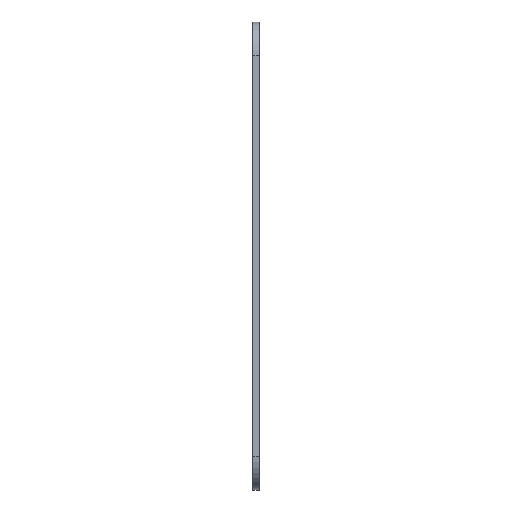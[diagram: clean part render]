
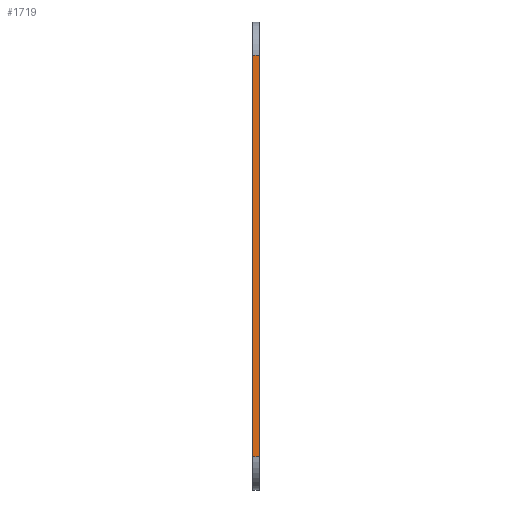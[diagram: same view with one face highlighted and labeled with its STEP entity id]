
A CAD part, left-side view. The second image highlights one B-rep face of the part: STEP entity #1719.
In plain terms, the highlighted planar face has unit normal (-1, 0, 0).
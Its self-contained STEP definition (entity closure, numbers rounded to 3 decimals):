
#44 = PLANE('',#45);
#45 = AXIS2_PLACEMENT_3D('',#46,#47,#48);
#46 = CARTESIAN_POINT('',(-30.,-1.2,50.));
#47 = DIRECTION('',(-0.,-1.,-0.));
#48 = DIRECTION('',(0.,0.,-1.));
#72 = CYLINDRICAL_SURFACE('',#73,6.);
#73 = AXIS2_PLACEMENT_3D('',#74,#75,#76);
#74 = CARTESIAN_POINT('',(-64.,-1.2,14.));
#75 = DIRECTION('',(-0.,1.,-0.));
#76 = DIRECTION('',(0.,0.,-1.));
#100 = PLANE('',#101);
#101 = AXIS2_PLACEMENT_3D('',#102,#103,#104);
#102 = CARTESIAN_POINT('',(-30.,0.,50.));
#103 = DIRECTION('',(-0.,-1.,-0.));
#104 = DIRECTION('',(0.,0.,-1.));
#252 = VERTEX_POINT('',#253);
#253 = CARTESIAN_POINT('',(-70.,-1.2,86.));
#268 = CYLINDRICAL_SURFACE('',#269,6.);
#269 = AXIS2_PLACEMENT_3D('',#270,#271,#272);
#270 = CARTESIAN_POINT('',(-64.,-1.2,86.));
#271 = DIRECTION('',(-0.,1.,-0.));
#272 = DIRECTION('',(0.,0.,1.));
#280 = EDGE_CURVE('',#252,#281,#283,.T.);
#281 = VERTEX_POINT('',#282);
#282 = CARTESIAN_POINT('',(-70.,-1.2,14.));
#283 = SURFACE_CURVE('',#284,(#288,#295),.PCURVE_S1.);
#284 = LINE('',#285,#286);
#285 = CARTESIAN_POINT('',(-70.,-1.2,92.));
#286 = VECTOR('',#287,1.);
#287 = DIRECTION('',(0.,0.,-1.));
#288 = PCURVE('',#44,#289);
#289 = DEFINITIONAL_REPRESENTATION('',(#290),#294);
#290 = LINE('',#291,#292);
#291 = CARTESIAN_POINT('',(-42.,-40.));
#292 = VECTOR('',#293,1.);
#293 = DIRECTION('',(1.,0.));
#294 = ( GEOMETRIC_REPRESENTATION_CONTEXT(2) 
PARAMETRIC_REPRESENTATION_CONTEXT() REPRESENTATION_CONTEXT('2D SPACE',''
  ) );
#295 = PCURVE('',#296,#301);
#296 = PLANE('',#297);
#297 = AXIS2_PLACEMENT_3D('',#298,#299,#300);
#298 = CARTESIAN_POINT('',(-70.,-1.2,92.));
#299 = DIRECTION('',(-1.,-0.,-0.));
#300 = DIRECTION('',(0.,0.,-1.));
#301 = DEFINITIONAL_REPRESENTATION('',(#302),#306);
#302 = LINE('',#303,#304);
#303 = CARTESIAN_POINT('',(0.,0.));
#304 = VECTOR('',#305,1.);
#305 = DIRECTION('',(1.,0.));
#306 = ( GEOMETRIC_REPRESENTATION_CONTEXT(2) 
PARAMETRIC_REPRESENTATION_CONTEXT() REPRESENTATION_CONTEXT('2D SPACE',''
  ) );
#971 = EDGE_CURVE('',#281,#972,#974,.T.);
#972 = VERTEX_POINT('',#973);
#973 = CARTESIAN_POINT('',(-70.,0.,14.));
#974 = SURFACE_CURVE('',#975,(#979,#986),.PCURVE_S1.);
#975 = LINE('',#976,#977);
#976 = CARTESIAN_POINT('',(-70.,-1.2,14.));
#977 = VECTOR('',#978,1.);
#978 = DIRECTION('',(-0.,1.,-0.));
#979 = PCURVE('',#72,#980);
#980 = DEFINITIONAL_REPRESENTATION('',(#981),#985);
#981 = LINE('',#982,#983);
#982 = CARTESIAN_POINT('',(1.571,0.));
#983 = VECTOR('',#984,1.);
#984 = DIRECTION('',(0.,1.));
#985 = ( GEOMETRIC_REPRESENTATION_CONTEXT(2) 
PARAMETRIC_REPRESENTATION_CONTEXT() REPRESENTATION_CONTEXT('2D SPACE',''
  ) );
#986 = PCURVE('',#296,#987);
#987 = DEFINITIONAL_REPRESENTATION('',(#988),#992);
#988 = LINE('',#989,#990);
#989 = CARTESIAN_POINT('',(78.,0.));
#990 = VECTOR('',#991,1.);
#991 = DIRECTION('',(0.,-1.));
#992 = ( GEOMETRIC_REPRESENTATION_CONTEXT(2) 
PARAMETRIC_REPRESENTATION_CONTEXT() REPRESENTATION_CONTEXT('2D SPACE',''
  ) );
#1147 = VERTEX_POINT('',#1148);
#1148 = CARTESIAN_POINT('',(-70.,0.,86.));
#1170 = EDGE_CURVE('',#1147,#972,#1171,.T.);
#1171 = SURFACE_CURVE('',#1172,(#1176,#1183),.PCURVE_S1.);
#1172 = LINE('',#1173,#1174);
#1173 = CARTESIAN_POINT('',(-70.,0.,92.));
#1174 = VECTOR('',#1175,1.);
#1175 = DIRECTION('',(0.,0.,-1.));
#1176 = PCURVE('',#100,#1177);
#1177 = DEFINITIONAL_REPRESENTATION('',(#1178),#1182);
#1178 = LINE('',#1179,#1180);
#1179 = CARTESIAN_POINT('',(-42.,-40.));
#1180 = VECTOR('',#1181,1.);
#1181 = DIRECTION('',(1.,0.));
#1182 = ( GEOMETRIC_REPRESENTATION_CONTEXT(2) 
PARAMETRIC_REPRESENTATION_CONTEXT() REPRESENTATION_CONTEXT('2D SPACE',''
  ) );
#1183 = PCURVE('',#296,#1184);
#1184 = DEFINITIONAL_REPRESENTATION('',(#1185),#1189);
#1185 = LINE('',#1186,#1187);
#1186 = CARTESIAN_POINT('',(0.,-1.2));
#1187 = VECTOR('',#1188,1.);
#1188 = DIRECTION('',(1.,0.));
#1189 = ( GEOMETRIC_REPRESENTATION_CONTEXT(2) 
PARAMETRIC_REPRESENTATION_CONTEXT() REPRESENTATION_CONTEXT('2D SPACE',''
  ) );
#1719 = ADVANCED_FACE('',(#1720),#296,.T.);
#1720 = FACE_BOUND('',#1721,.T.);
#1721 = EDGE_LOOP('',(#1722,#1723,#1744,#1745));
#1722 = ORIENTED_EDGE('',*,*,#280,.F.);
#1723 = ORIENTED_EDGE('',*,*,#1724,.T.);
#1724 = EDGE_CURVE('',#252,#1147,#1725,.T.);
#1725 = SURFACE_CURVE('',#1726,(#1730,#1737),.PCURVE_S1.);
#1726 = LINE('',#1727,#1728);
#1727 = CARTESIAN_POINT('',(-70.,-1.2,86.));
#1728 = VECTOR('',#1729,1.);
#1729 = DIRECTION('',(-0.,1.,-0.));
#1730 = PCURVE('',#296,#1731);
#1731 = DEFINITIONAL_REPRESENTATION('',(#1732),#1736);
#1732 = LINE('',#1733,#1734);
#1733 = CARTESIAN_POINT('',(6.,0.));
#1734 = VECTOR('',#1735,1.);
#1735 = DIRECTION('',(0.,-1.));
#1736 = ( GEOMETRIC_REPRESENTATION_CONTEXT(2) 
PARAMETRIC_REPRESENTATION_CONTEXT() REPRESENTATION_CONTEXT('2D SPACE',''
  ) );
#1737 = PCURVE('',#268,#1738);
#1738 = DEFINITIONAL_REPRESENTATION('',(#1739),#1743);
#1739 = LINE('',#1740,#1741);
#1740 = CARTESIAN_POINT('',(-1.571,0.));
#1741 = VECTOR('',#1742,1.);
#1742 = DIRECTION('',(-0.,1.));
#1743 = ( GEOMETRIC_REPRESENTATION_CONTEXT(2) 
PARAMETRIC_REPRESENTATION_CONTEXT() REPRESENTATION_CONTEXT('2D SPACE',''
  ) );
#1744 = ORIENTED_EDGE('',*,*,#1170,.T.);
#1745 = ORIENTED_EDGE('',*,*,#971,.F.);
